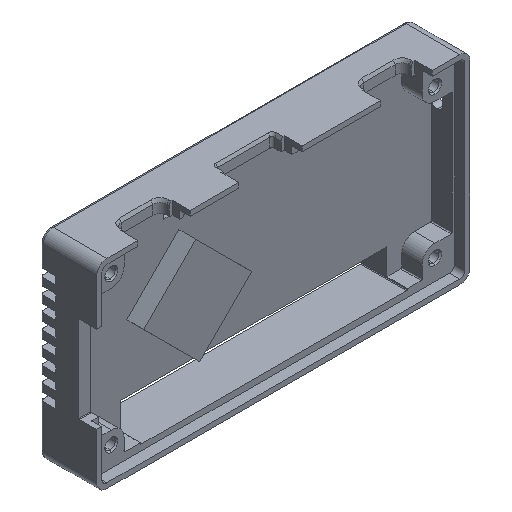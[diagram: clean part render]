
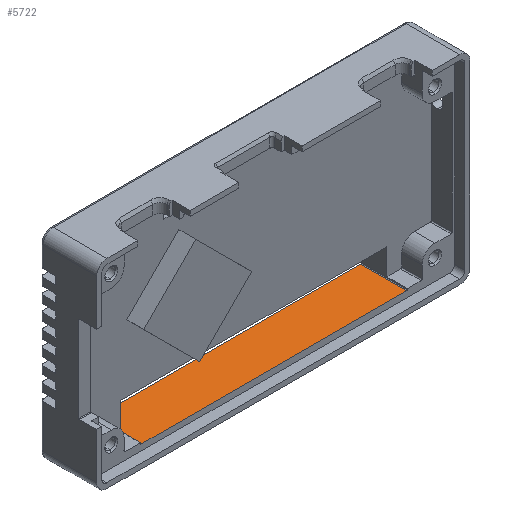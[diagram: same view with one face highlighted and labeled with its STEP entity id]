
A CAD part, isometric view. The second image highlights one B-rep face of the part: STEP entity #5722.
In plain terms, the highlighted planar face has unit normal (0, 0, 1).
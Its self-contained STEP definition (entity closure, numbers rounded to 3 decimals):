
#213 = CARTESIAN_POINT ( 'NONE',  ( -25.85, -52.7, -17.3 ) ) ;
#258 = ORIENTED_EDGE ( 'NONE', *, *, #5969, .T. ) ;
#305 = EDGE_CURVE ( 'NONE', #4489, #1607, #3820, .T. ) ;
#730 = ORIENTED_EDGE ( 'NONE', *, *, #1256, .T. ) ;
#786 = DIRECTION ( 'NONE',  ( 0., -1., 0. ) ) ;
#810 = CARTESIAN_POINT ( 'NONE',  ( -25.85, 4.5, -17.3 ) ) ;
#1176 = VECTOR ( 'NONE', #3511, 1000. ) ;
#1213 = VERTEX_POINT ( 'NONE', #4851 ) ;
#1256 = EDGE_CURVE ( 'NONE', #4489, #3618, #2533, .T. ) ;
#1370 = FACE_OUTER_BOUND ( 'NONE', #7537, .T. ) ;
#1607 = VERTEX_POINT ( 'NONE', #1862 ) ;
#1862 = CARTESIAN_POINT ( 'NONE',  ( 26.15, 4.5, -17.3 ) ) ;
#2211 = ORIENTED_EDGE ( 'NONE', *, *, #7597, .T. ) ;
#2449 = VECTOR ( 'NONE', #3752, 1000. ) ;
#2533 = LINE ( 'NONE', #213, #3580 ) ;
#2797 = LINE ( 'NONE', #2871, #1176 ) ;
#2871 = CARTESIAN_POINT ( 'NONE',  ( 26.15, -52.7, -17.3 ) ) ;
#2951 = AXIS2_PLACEMENT_3D ( 'NONE', #4349, #4960, #6760 ) ;
#3203 = LINE ( 'NONE', #3716, #2449 ) ;
#3511 = DIRECTION ( 'NONE',  ( 0., 1., 0. ) ) ;
#3580 = VECTOR ( 'NONE', #786, 1000. ) ;
#3618 = VERTEX_POINT ( 'NONE', #6330 ) ;
#3716 = CARTESIAN_POINT ( 'NONE',  ( 26.25, -4.5, -17.3 ) ) ;
#3752 = DIRECTION ( 'NONE',  ( 1., 0., 0. ) ) ;
#3820 = LINE ( 'NONE', #6181, #6922 ) ;
#4349 = CARTESIAN_POINT ( 'NONE',  ( -25.95, -52.7, -17.3 ) ) ;
#4489 = VERTEX_POINT ( 'NONE', #810 ) ;
#4851 = CARTESIAN_POINT ( 'NONE',  ( 26.15, -4.5, -17.3 ) ) ;
#4929 = ORIENTED_EDGE ( 'NONE', *, *, #305, .F. ) ;
#4946 = DIRECTION ( 'NONE',  ( 1., 0., 0. ) ) ;
#4960 = DIRECTION ( 'NONE',  ( 0., 0., 1. ) ) ;
#5722 = ADVANCED_FACE ( 'NONE', ( #1370 ), #6609, .T. ) ;
#5969 = EDGE_CURVE ( 'NONE', #3618, #1213, #3203, .T. ) ;
#6181 = CARTESIAN_POINT ( 'NONE',  ( -25.95, 4.5, -17.3 ) ) ;
#6330 = CARTESIAN_POINT ( 'NONE',  ( -25.85, -4.5, -17.3 ) ) ;
#6609 = PLANE ( 'NONE',  #2951 ) ;
#6760 = DIRECTION ( 'NONE',  ( 1., 0., 0. ) ) ;
#6922 = VECTOR ( 'NONE', #4946, 1000. ) ;
#7537 = EDGE_LOOP ( 'NONE', ( #4929, #730, #258, #2211 ) ) ;
#7597 = EDGE_CURVE ( 'NONE', #1213, #1607, #2797, .T. ) ;
